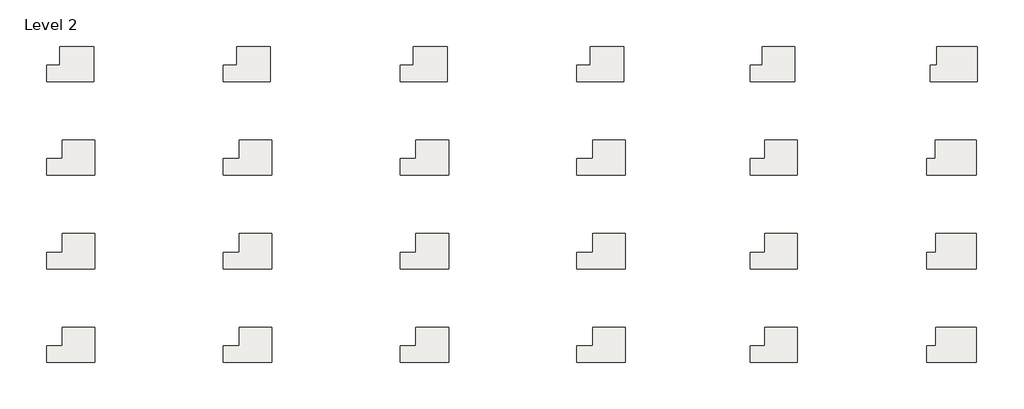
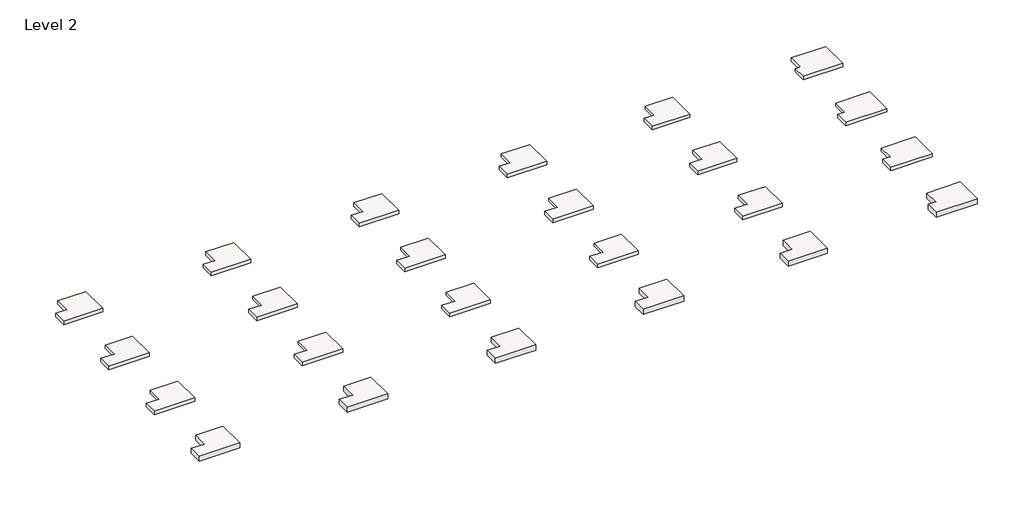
# One storey, incomplete: 24 slabs.
"""IFC4 building model written with IfcOpenShell, lengths in millimetres."""

from ifc_helpers import new_model, si_unit, origin, place, context, project, spatial, faceted_brep, element, save

model = new_model("IFC4")

# Units and contexts
model_context = context("Model", 3, world=origin())
ifc_project = project(units=[si_unit("LENGTHUNIT", "METRE", prefix="MILLI")], contexts=[model_context])

# Site, building, storey
site = spatial("IfcSite", under=ifc_project)
building = spatial("IfcBuilding", under=site)
storey = spatial("IfcBuildingStorey", under=building, Name="Level 2", Elevation=4000.0)

# Slabs
placement = place(None, origin())
element("IfcSlab", 1, ObjectType="_FLOOR 21", at=placement, inside=storey, context=model_context, shape_type="Brep", body=[
    faceted_brep([(6503.8666008, -3883.4242977, 3707.9), (3038.6100061, -3883.4242977, 3707.9), (3038.6100061, -2701.8242977, 3707.9), (4167.5746008, -2701.8242977, 3707.9), (4167.5746008, -1368.8242977, 3707.9), (6503.8666008, -1368.8242977, 3707.9), (6503.8666008, -3883.4242977, 4000.0), (6503.8666008, -1368.8242977, 4000.0), (4167.5746008, -1368.8242977, 4000.0), (4167.5746008, -2701.8242977, 4000.0), (3038.6100061, -2701.8242977, 4000.0), (3038.6100061, -3883.4242977, 4000.0)], [[[0, 1, 2, 3, 4, 5]], [[6, 7, 8, 9, 10, 11]], [[1, 0, 6, 11]], [[2, 1, 11, 10]], [[5, 4, 8, 7]], [[0, 5, 7, 6]], [[3, 2, 10, 9]], [[4, 3, 9, 8]]]),
])
element("IfcSlab", 2, ObjectType="_FLOOR 21", at=placement, inside=storey, context=model_context, shape_type="Brep", body=[
    faceted_brep([(6402.1734124, 2822.1757023, 3707.9), (3038.6100061, 2822.1757023, 3707.9), (3038.6100061, 4003.7757023, 3707.9), (3989.6814124, 4003.7757023, 3707.9), (3989.6814124, 5336.7757023, 3707.9), (6402.1734124, 5336.7757023, 3707.9), (6402.1734124, 2822.1757023, 4000.0), (6402.1734124, 5336.7757023, 4000.0), (3989.6814124, 5336.7757023, 4000.0), (3989.6814124, 4003.7757023, 4000.0), (3038.6100061, 4003.7757023, 4000.0), (3038.6100061, 2822.1757023, 4000.0)], [[[0, 1, 2, 3, 4, 5]], [[6, 7, 8, 9, 10, 11]], [[1, 0, 6, 11]], [[2, 1, 11, 10]], [[5, 4, 8, 7]], [[0, 5, 7, 6]], [[3, 2, 10, 9]], [[4, 3, 9, 8]]]),
])
element("IfcSlab", 3, ObjectType="_FLOOR 21", at=placement, inside=storey, context=model_context, shape_type="Brep", body=[
    faceted_brep([(6503.8666008, -10589.0242977, 3707.9), (3038.6100061, -10589.0242977, 3707.9), (3038.6100061, -9407.4242977, 3707.9), (4167.5746008, -9407.4242977, 3707.9), (4167.5746008, -8074.4242977, 3707.9), (6503.8666008, -8074.4242977, 3707.9), (6503.8666008, -10589.0242977, 4000.0), (6503.8666008, -8074.4242977, 4000.0), (4167.5746008, -8074.4242977, 4000.0), (4167.5746008, -9407.4242977, 4000.0), (3038.6100061, -9407.4242977, 4000.0), (3038.6100061, -10589.0242977, 4000.0)], [[[0, 1, 2, 3, 4, 5]], [[6, 7, 8, 9, 10, 11]], [[1, 0, 6, 11]], [[2, 1, 11, 10]], [[5, 4, 8, 7]], [[0, 5, 7, 6]], [[3, 2, 10, 9]], [[4, 3, 9, 8]]]),
])
element("IfcSlab", 4, ObjectType="_FLOOR 21", at=placement, inside=storey, context=model_context, shape_type="Brep", body=[
    faceted_brep([(19153.0666008, -3883.4242977, 3707.9), (15687.8100061, -3883.4242977, 3707.9), (15687.8100061, -2701.8242977, 3707.9), (16816.7746008, -2701.8242977, 3707.9), (16816.7746008, -1368.8242977, 3707.9), (19153.0666008, -1368.8242977, 3707.9), (19153.0666008, -3883.4242977, 4000.0), (19153.0666008, -1368.8242977, 4000.0), (16816.7746008, -1368.8242977, 4000.0), (16816.7746008, -2701.8242977, 4000.0), (15687.8100061, -2701.8242977, 4000.0), (15687.8100061, -3883.4242977, 4000.0)], [[[0, 1, 2, 3, 4, 5]], [[6, 7, 8, 9, 10, 11]], [[1, 0, 6, 11]], [[2, 1, 11, 10]], [[5, 4, 8, 7]], [[0, 5, 7, 6]], [[3, 2, 10, 9]], [[4, 3, 9, 8]]]),
])
element("IfcSlab", 5, ObjectType="_FLOOR 21", at=placement, inside=storey, context=model_context, shape_type="Brep", body=[
    faceted_brep([(19051.3734124, 2822.1757023, 3707.9), (15687.8100061, 2822.1757023, 3707.9), (15687.8100061, 4003.7757023, 3707.9), (16638.8814124, 4003.7757023, 3707.9), (16638.8814124, 5336.7757023, 3707.9), (19051.3734124, 5336.7757023, 3707.9), (19051.3734124, 2822.1757023, 4000.0), (19051.3734124, 5336.7757023, 4000.0), (16638.8814124, 5336.7757023, 4000.0), (16638.8814124, 4003.7757023, 4000.0), (15687.8100061, 4003.7757023, 4000.0), (15687.8100061, 2822.1757023, 4000.0)], [[[0, 1, 2, 3, 4, 5]], [[6, 7, 8, 9, 10, 11]], [[1, 0, 6, 11]], [[2, 1, 11, 10]], [[5, 4, 8, 7]], [[0, 5, 7, 6]], [[3, 2, 10, 9]], [[4, 3, 9, 8]]]),
])
element("IfcSlab", 6, ObjectType="_FLOOR 21", at=placement, inside=storey, context=model_context, shape_type="Brep", body=[
    faceted_brep([(19153.0666008, -10589.0242977, 3707.9), (15687.8100061, -10589.0242977, 3707.9), (15687.8100061, -9407.4242977, 3707.9), (16816.7746008, -9407.4242977, 3707.9), (16816.7746008, -8074.4242977, 3707.9), (19153.0666008, -8074.4242977, 3707.9), (19153.0666008, -10589.0242977, 4000.0), (19153.0666008, -8074.4242977, 4000.0), (16816.7746008, -8074.4242977, 4000.0), (16816.7746008, -9407.4242977, 4000.0), (15687.8100061, -9407.4242977, 4000.0), (15687.8100061, -10589.0242977, 4000.0)], [[[0, 1, 2, 3, 4, 5]], [[6, 7, 8, 9, 10, 11]], [[1, 0, 6, 11]], [[2, 1, 11, 10]], [[5, 4, 8, 7]], [[0, 5, 7, 6]], [[3, 2, 10, 9]], [[4, 3, 9, 8]]]),
])
element("IfcSlab", 7, ObjectType="_FLOOR 21", at=placement, inside=storey, context=model_context, shape_type="Brep", body=[
    faceted_brep([(31802.2666008, -3883.4242977, 3707.9), (28337.0100061, -3883.4242977, 3707.9), (28337.0100061, -2701.8242977, 3707.9), (29465.9746008, -2701.8242977, 3707.9), (29465.9746008, -1368.8242977, 3707.9), (31802.2666008, -1368.8242977, 3707.9), (31802.2666008, -3883.4242977, 4000.0), (31802.2666008, -1368.8242977, 4000.0), (29465.9746008, -1368.8242977, 4000.0), (29465.9746008, -2701.8242977, 4000.0), (28337.0100061, -2701.8242977, 4000.0), (28337.0100061, -3883.4242977, 4000.0)], [[[0, 1, 2, 3, 4, 5]], [[6, 7, 8, 9, 10, 11]], [[1, 0, 6, 11]], [[2, 1, 11, 10]], [[5, 4, 8, 7]], [[0, 5, 7, 6]], [[3, 2, 10, 9]], [[4, 3, 9, 8]]]),
])
element("IfcSlab", 8, ObjectType="_FLOOR 21", at=placement, inside=storey, context=model_context, shape_type="Brep", body=[
    faceted_brep([(31700.5734124, 2822.1757023, 3707.9), (28337.0100061, 2822.1757023, 3707.9), (28337.0100061, 4003.7757023, 3707.9), (29288.0814124, 4003.7757023, 3707.9), (29288.0814124, 5336.7757023, 3707.9), (31700.5734124, 5336.7757023, 3707.9), (31700.5734124, 2822.1757023, 4000.0), (31700.5734124, 5336.7757023, 4000.0), (29288.0814124, 5336.7757023, 4000.0), (29288.0814124, 4003.7757023, 4000.0), (28337.0100061, 4003.7757023, 4000.0), (28337.0100061, 2822.1757023, 4000.0)], [[[0, 1, 2, 3, 4, 5]], [[6, 7, 8, 9, 10, 11]], [[1, 0, 6, 11]], [[2, 1, 11, 10]], [[5, 4, 8, 7]], [[0, 5, 7, 6]], [[3, 2, 10, 9]], [[4, 3, 9, 8]]]),
])
element("IfcSlab", 9, ObjectType="_FLOOR 21", at=placement, inside=storey, context=model_context, shape_type="Brep", body=[
    faceted_brep([(31802.2666008, -10589.0242977, 3707.9), (28337.0100061, -10589.0242977, 3707.9), (28337.0100061, -9407.4242977, 3707.9), (29465.9746008, -9407.4242977, 3707.9), (29465.9746008, -8074.4242977, 3707.9), (31802.2666008, -8074.4242977, 3707.9), (31802.2666008, -10589.0242977, 4000.0), (31802.2666008, -8074.4242977, 4000.0), (29465.9746008, -8074.4242977, 4000.0), (29465.9746008, -9407.4242977, 4000.0), (28337.0100061, -9407.4242977, 4000.0), (28337.0100061, -10589.0242977, 4000.0)], [[[0, 1, 2, 3, 4, 5]], [[6, 7, 8, 9, 10, 11]], [[1, 0, 6, 11]], [[2, 1, 11, 10]], [[5, 4, 8, 7]], [[0, 5, 7, 6]], [[3, 2, 10, 9]], [[4, 3, 9, 8]]]),
])
element("IfcSlab", 10, ObjectType="_FLOOR 21", at=placement, inside=storey, context=model_context, shape_type="Brep", body=[
    faceted_brep([(44451.4666008, -3883.4242977, 3707.9), (40986.2100061, -3883.4242977, 3707.9), (40986.2100061, -2701.8242977, 3707.9), (42115.1746008, -2701.8242977, 3707.9), (42115.1746008, -1368.8242977, 3707.9), (44451.4666008, -1368.8242977, 3707.9), (44451.4666008, -3883.4242977, 4000.0), (44451.4666008, -1368.8242977, 4000.0), (42115.1746008, -1368.8242977, 4000.0), (42115.1746008, -2701.8242977, 4000.0), (40986.2100061, -2701.8242977, 4000.0), (40986.2100061, -3883.4242977, 4000.0)], [[[0, 1, 2, 3, 4, 5]], [[6, 7, 8, 9, 10, 11]], [[1, 0, 6, 11]], [[2, 1, 11, 10]], [[5, 4, 8, 7]], [[0, 5, 7, 6]], [[3, 2, 10, 9]], [[4, 3, 9, 8]]]),
])
element("IfcSlab", 11, ObjectType="_FLOOR 21", at=placement, inside=storey, context=model_context, shape_type="Brep", body=[
    faceted_brep([(44349.7734124, 2822.1757023, 3707.9), (40986.2100061, 2822.1757023, 3707.9), (40986.2100061, 4003.7757023, 3707.9), (41937.2814124, 4003.7757023, 3707.9), (41937.2814124, 5336.7757023, 3707.9), (44349.7734124, 5336.7757023, 3707.9), (44349.7734124, 2822.1757023, 4000.0), (44349.7734124, 5336.7757023, 4000.0), (41937.2814124, 5336.7757023, 4000.0), (41937.2814124, 4003.7757023, 4000.0), (40986.2100061, 4003.7757023, 4000.0), (40986.2100061, 2822.1757023, 4000.0)], [[[0, 1, 2, 3, 4, 5]], [[6, 7, 8, 9, 10, 11]], [[1, 0, 6, 11]], [[2, 1, 11, 10]], [[5, 4, 8, 7]], [[0, 5, 7, 6]], [[3, 2, 10, 9]], [[4, 3, 9, 8]]]),
])
element("IfcSlab", 12, ObjectType="_FLOOR 21", at=placement, inside=storey, context=model_context, shape_type="Brep", body=[
    faceted_brep([(44451.4666008, -10589.0242977, 3707.9), (40986.2100061, -10589.0242977, 3707.9), (40986.2100061, -9407.4242977, 3707.9), (42115.1746008, -9407.4242977, 3707.9), (42115.1746008, -8074.4242977, 3707.9), (44451.4666008, -8074.4242977, 3707.9), (44451.4666008, -10589.0242977, 4000.0), (44451.4666008, -8074.4242977, 4000.0), (42115.1746008, -8074.4242977, 4000.0), (42115.1746008, -9407.4242977, 4000.0), (40986.2100061, -9407.4242977, 4000.0), (40986.2100061, -10589.0242977, 4000.0)], [[[0, 1, 2, 3, 4, 5]], [[6, 7, 8, 9, 10, 11]], [[1, 0, 6, 11]], [[2, 1, 11, 10]], [[5, 4, 8, 7]], [[0, 5, 7, 6]], [[3, 2, 10, 9]], [[4, 3, 9, 8]]]),
])
element("IfcSlab", 13, ObjectType="_FLOOR 21", at=placement, inside=storey, context=model_context, shape_type="Brep", body=[
    faceted_brep([(56575.9997561, 2822.1757023, 3707.9), (53381.4100061, 2822.1757023, 3707.9), (53381.4100061, 4003.7757023, 3707.9), (54239.1997561, 4003.7757023, 3707.9), (54239.1997561, 5336.7757023, 3707.9), (56575.9997561, 5336.7757023, 3707.9), (56575.9997561, 2822.1757023, 4000.0), (56575.9997561, 5336.7757023, 4000.0), (54239.1997561, 5336.7757023, 4000.0), (54239.1997561, 4003.7757023, 4000.0), (53381.4100061, 4003.7757023, 4000.0), (53381.4100061, 2822.1757023, 4000.0)], [[[0, 1, 2, 3, 4, 5]], [[6, 7, 8, 9, 10, 11]], [[1, 0, 6, 11]], [[2, 1, 11, 10]], [[5, 4, 8, 7]], [[0, 5, 7, 6]], [[3, 2, 10, 9]], [[4, 3, 9, 8]]]),
])
element("IfcSlab", 14, ObjectType="_FLOOR 21", at=placement, inside=storey, context=model_context, shape_type="Brep", body=[
    faceted_brep([(69648.1734124, 2822.1757023, 3707.9), (66284.6100061, 2822.1757023, 3707.9), (66284.6100061, 4003.7757023, 3707.9), (66718.7569653, 4003.7757023, 3707.9), (66718.7569653, 5336.7757023, 3707.9), (69648.1734124, 5336.7757023, 3707.9), (69648.1734124, 2822.1757023, 4000.0), (69648.1734124, 5336.7757023, 4000.0), (66718.7569653, 5336.7757023, 4000.0), (66718.7569653, 4003.7757023, 4000.0), (66284.6100061, 4003.7757023, 4000.0), (66284.6100061, 2822.1757023, 4000.0)], [[[0, 1, 2, 3, 4, 5]], [[6, 7, 8, 9, 10, 11]], [[1, 0, 6, 11]], [[2, 1, 11, 10]], [[5, 4, 8, 7]], [[0, 5, 7, 6]], [[3, 2, 10, 9]], [[4, 3, 9, 8]]]),
])
element("IfcSlab", 15, ObjectType="_FLOOR 21", at=placement, inside=storey, context=model_context, shape_type="Brep", body=[
    faceted_brep([(56737.9247561, -3883.4242977, 3707.9), (53381.4100061, -3883.4242977, 3707.9), (53381.4100061, -2701.8242977, 3707.9), (54427.0327561, -2701.8242977, 3707.9), (54427.0327561, -1368.8242977, 3707.9), (56737.9247561, -1368.8242977, 3707.9), (56737.9247561, -3883.4242977, 4000.0), (56737.9247561, -1368.8242977, 4000.0), (54427.0327561, -1368.8242977, 4000.0), (54427.0327561, -2701.8242977, 4000.0), (53381.4100061, -2701.8242977, 4000.0), (53381.4100061, -3883.4242977, 4000.0)], [[[0, 1, 2, 3, 4, 5]], [[6, 7, 8, 9, 10, 11]], [[1, 0, 6, 11]], [[2, 1, 11, 10]], [[5, 4, 8, 7]], [[0, 5, 7, 6]], [[3, 2, 10, 9]], [[4, 3, 9, 8]]]),
])
element("IfcSlab", 16, ObjectType="_FLOOR 21", at=placement, inside=storey, context=model_context, shape_type="Brep", body=[
    faceted_brep([(69566.2239653, -3883.4242977, 3707.9), (66030.6100061, -3883.4242977, 3707.9), (66030.6100061, -2701.8242977, 3707.9), (66645.7319653, -2701.8242977, 3707.9), (66645.7319653, -1368.8242977, 3707.9), (69566.2239653, -1368.8242977, 3707.9), (69566.2239653, -3883.4242977, 4000.0), (69566.2239653, -1368.8242977, 4000.0), (66645.7319653, -1368.8242977, 4000.0), (66645.7319653, -2701.8242977, 4000.0), (66030.6100061, -2701.8242977, 4000.0), (66030.6100061, -3883.4242977, 4000.0)], [[[0, 1, 2, 3, 4, 5]], [[6, 7, 8, 9, 10, 11]], [[1, 0, 6, 11]], [[2, 1, 11, 10]], [[5, 4, 8, 7]], [[0, 5, 7, 6]], [[3, 2, 10, 9]], [[4, 3, 9, 8]]]),
])
element("IfcSlab", 17, ObjectType="_FLOOR 21", at=placement, inside=storey, context=model_context, shape_type="Brep", body=[
    faceted_brep([(56737.9247561, -10589.0242977, 3707.9), (53381.4100061, -10589.0242977, 3707.9), (53381.4100061, -9407.4242977, 3707.9), (54427.0327561, -9407.4242977, 3707.9), (54427.0327561, -8074.4242977, 3707.9), (56737.9247561, -8074.4242977, 3707.9), (56737.9247561, -10589.0242977, 4000.0), (56737.9247561, -8074.4242977, 4000.0), (54427.0327561, -8074.4242977, 4000.0), (54427.0327561, -9407.4242977, 4000.0), (53381.4100061, -9407.4242977, 4000.0), (53381.4100061, -10589.0242977, 4000.0)], [[[0, 1, 2, 3, 4, 5]], [[6, 7, 8, 9, 10, 11]], [[1, 0, 6, 11]], [[2, 1, 11, 10]], [[5, 4, 8, 7]], [[0, 5, 7, 6]], [[3, 2, 10, 9]], [[4, 3, 9, 8]]]),
])
element("IfcSlab", 18, ObjectType="_FLOOR 21", at=placement, inside=storey, context=model_context, shape_type="Brep", body=[
    faceted_brep([(69566.2239653, -10589.0242977, 3707.9), (66030.6100061, -10589.0242977, 3707.9), (66030.6100061, -9407.4242977, 3707.9), (66671.1218061, -9407.4242977, 3707.9), (66671.1218061, -8074.4242977, 3707.9), (69566.2239653, -8074.4242977, 3707.9), (69566.2239653, -10589.0242977, 4000.0), (69566.2239653, -8074.4242977, 4000.0), (66671.1218061, -8074.4242977, 4000.0), (66671.1218061, -9407.4242977, 4000.0), (66030.6100061, -9407.4242977, 4000.0), (66030.6100061, -10589.0242977, 4000.0)], [[[0, 1, 2, 3, 4, 5]], [[6, 7, 8, 9, 10, 11]], [[1, 0, 6, 11]], [[2, 1, 11, 10]], [[5, 4, 8, 7]], [[0, 5, 7, 6]], [[3, 2, 10, 9]], [[4, 3, 9, 8]]]),
])
element("IfcSlab", 19, ObjectType="_FLOOR 40", at=placement, inside=storey, context=model_context, shape_type="Brep", body=[
    faceted_brep([(6503.8666008, -17294.6242977, 3542.8), (3038.6100061, -17294.6242977, 3542.8), (3038.6100061, -16113.0242977, 3542.8), (4167.5746008, -16113.0242977, 3542.8), (4167.5746008, -14780.0242977, 3542.8), (6503.8666008, -14780.0242977, 3542.8), (6503.8666008, -17294.6242977, 4000.0), (6503.8666008, -14780.0242977, 4000.0), (4167.5746008, -14780.0242977, 4000.0), (4167.5746008, -16113.0242977, 4000.0), (3038.6100061, -16113.0242977, 4000.0), (3038.6100061, -17294.6242977, 4000.0)], [[[0, 1, 2, 3, 4, 5]], [[6, 7, 8, 9, 10, 11]], [[1, 0, 6, 11]], [[2, 1, 11, 10]], [[5, 4, 8, 7]], [[0, 5, 7, 6]], [[3, 2, 10, 9]], [[4, 3, 9, 8]]]),
])
element("IfcSlab", 20, ObjectType="_FLOOR 40", at=placement, inside=storey, context=model_context, shape_type="Brep", body=[
    faceted_brep([(19153.0666008, -17294.6242977, 3542.8), (15687.8100061, -17294.6242977, 3542.8), (15687.8100061, -16113.0242977, 3542.8), (16816.7746008, -16113.0242977, 3542.8), (16816.7746008, -14780.0242977, 3542.8), (19153.0666008, -14780.0242977, 3542.8), (19153.0666008, -17294.6242977, 4000.0), (19153.0666008, -14780.0242977, 4000.0), (16816.7746008, -14780.0242977, 4000.0), (16816.7746008, -16113.0242977, 4000.0), (15687.8100061, -16113.0242977, 4000.0), (15687.8100061, -17294.6242977, 4000.0)], [[[0, 1, 2, 3, 4, 5]], [[6, 7, 8, 9, 10, 11]], [[1, 0, 6, 11]], [[2, 1, 11, 10]], [[5, 4, 8, 7]], [[0, 5, 7, 6]], [[3, 2, 10, 9]], [[4, 3, 9, 8]]]),
])
element("IfcSlab", 21, ObjectType="_FLOOR 40", at=placement, inside=storey, context=model_context, shape_type="Brep", body=[
    faceted_brep([(31802.2666008, -17294.6242977, 3542.8), (28337.0100061, -17294.6242977, 3542.8), (28337.0100061, -16113.0242977, 3542.8), (29465.9746008, -16113.0242977, 3542.8), (29465.9746008, -14780.0242977, 3542.8), (31802.2666008, -14780.0242977, 3542.8), (31802.2666008, -17294.6242977, 4000.0), (31802.2666008, -14780.0242977, 4000.0), (29465.9746008, -14780.0242977, 4000.0), (29465.9746008, -16113.0242977, 4000.0), (28337.0100061, -16113.0242977, 4000.0), (28337.0100061, -17294.6242977, 4000.0)], [[[0, 1, 2, 3, 4, 5]], [[6, 7, 8, 9, 10, 11]], [[1, 0, 6, 11]], [[2, 1, 11, 10]], [[5, 4, 8, 7]], [[0, 5, 7, 6]], [[3, 2, 10, 9]], [[4, 3, 9, 8]]]),
])
element("IfcSlab", 22, ObjectType="_FLOOR 40", at=placement, inside=storey, context=model_context, shape_type="Brep", body=[
    faceted_brep([(44451.4666008, -17294.6242977, 3542.8), (40986.2100061, -17294.6242977, 3542.8), (40986.2100061, -16113.0242977, 3542.8), (42115.1746008, -16113.0242977, 3542.8), (42115.1746008, -14780.0242977, 3542.8), (44451.4666008, -14780.0242977, 3542.8), (44451.4666008, -17294.6242977, 4000.0), (44451.4666008, -14780.0242977, 4000.0), (42115.1746008, -14780.0242977, 4000.0), (42115.1746008, -16113.0242977, 4000.0), (40986.2100061, -16113.0242977, 4000.0), (40986.2100061, -17294.6242977, 4000.0)], [[[0, 1, 2, 3, 4, 5]], [[6, 7, 8, 9, 10, 11]], [[1, 0, 6, 11]], [[2, 1, 11, 10]], [[5, 4, 8, 7]], [[0, 5, 7, 6]], [[3, 2, 10, 9]], [[4, 3, 9, 8]]]),
])
element("IfcSlab", 23, ObjectType="_FLOOR 40", at=placement, inside=storey, context=model_context, shape_type="Brep", body=[
    faceted_brep([(56737.9247561, -17294.6242977, 3542.8), (53381.4100061, -17294.6242977, 3542.8), (53381.4100061, -16113.0242977, 3542.8), (54427.0327561, -16113.0242977, 3542.8), (54427.0327561, -14780.0242977, 3542.8), (56737.9247561, -14780.0242977, 3542.8), (56737.9247561, -17294.6242977, 4000.0), (56737.9247561, -14780.0242977, 4000.0), (54427.0327561, -14780.0242977, 4000.0), (54427.0327561, -16113.0242977, 4000.0), (53381.4100061, -16113.0242977, 4000.0), (53381.4100061, -17294.6242977, 4000.0)], [[[0, 1, 2, 3, 4, 5]], [[6, 7, 8, 9, 10, 11]], [[1, 0, 6, 11]], [[2, 1, 11, 10]], [[5, 4, 8, 7]], [[0, 5, 7, 6]], [[3, 2, 10, 9]], [[4, 3, 9, 8]]]),
])
element("IfcSlab", 24, ObjectType="_FLOOR 40", at=placement, inside=storey, context=model_context, shape_type="Brep", body=[
    faceted_brep([(69566.2239653, -17294.6242977, 3542.8), (66030.6100061, -17294.6242977, 3542.8), (66030.6100061, -16113.0242977, 3542.8), (66671.1218061, -16113.0242977, 3542.8), (66671.1218061, -14780.0242977, 3542.8), (69566.2239653, -14780.0242977, 3542.8), (69566.2239653, -17294.6242977, 4000.0), (69566.2239653, -14780.0242977, 4000.0), (66671.1218061, -14780.0242977, 4000.0), (66671.1218061, -16113.0242977, 4000.0), (66030.6100061, -16113.0242977, 4000.0), (66030.6100061, -17294.6242977, 4000.0)], [[[0, 1, 2, 3, 4, 5]], [[6, 7, 8, 9, 10, 11]], [[1, 0, 6, 11]], [[2, 1, 11, 10]], [[5, 4, 8, 7]], [[0, 5, 7, 6]], [[3, 2, 10, 9]], [[4, 3, 9, 8]]]),
])

save(model, "model.ifc")
